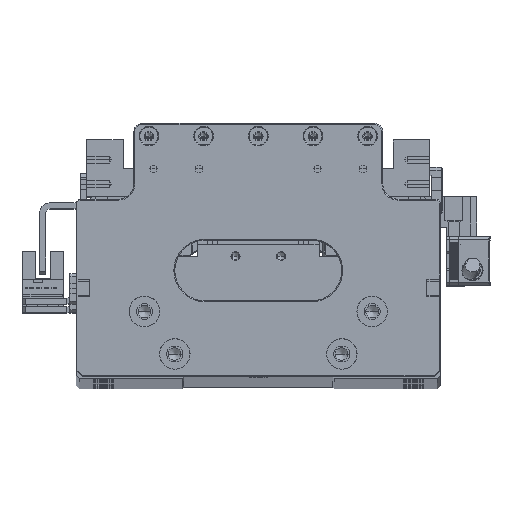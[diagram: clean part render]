
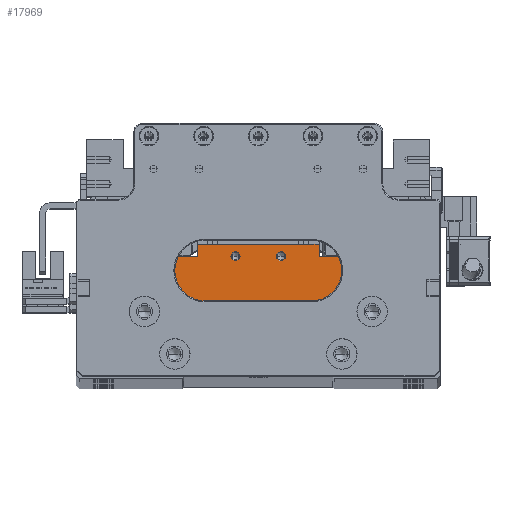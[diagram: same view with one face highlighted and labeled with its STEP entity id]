
A CAD part, top view. The second image highlights one B-rep face of the part: STEP entity #17969.
In plain terms, the highlighted planar face has unit normal (0, 0, 1).
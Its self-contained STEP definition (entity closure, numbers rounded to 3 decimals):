
#1219 = VERTEX_POINT ( 'NONE', #109952 ) ;
#1225 = LINE ( 'NONE', #130263, #54855 ) ;
#2827 = DIRECTION ( 'NONE',  ( 0., 1., 0. ) ) ;
#4763 = DIRECTION ( 'NONE',  ( 0., 0., 1. ) ) ;
#8325 = VERTEX_POINT ( 'NONE', #111724 ) ;
#9497 = ORIENTED_EDGE ( 'NONE', *, *, #23951, .F. ) ;
#10331 = CARTESIAN_POINT ( 'NONE',  ( -9.194, 10.204, 411.036 ) ) ;
#12601 = CARTESIAN_POINT ( 'NONE',  ( 18.306, 10.204, 411.036 ) ) ;
#15409 = AXIS2_PLACEMENT_3D ( 'NONE', #94768, #127509, #63378 ) ;
#17104 = EDGE_CURVE ( 'NONE', #132899, #47120, #44060, .T. ) ;
#17969 = ADVANCED_FACE ( 'NONE', ( #95770, #117512, #63911 ), #105967, .F. ) ;
#18488 = DIRECTION ( 'NONE',  ( 0., 0., 1. ) ) ;
#19829 = LINE ( 'NONE', #85998, #127015 ) ;
#21416 = AXIS2_PLACEMENT_3D ( 'NONE', #25178, #100048, #35930 ) ;
#22412 = CARTESIAN_POINT ( 'NONE',  ( 28.206, 6.204, 411.036 ) ) ;
#22630 = DIRECTION ( 'NONE',  ( 0., -1., 0. ) ) ;
#23478 = AXIS2_PLACEMENT_3D ( 'NONE', #68923, #4763, #79680 ) ;
#23951 = EDGE_CURVE ( 'NONE', #47120, #132899, #99403, .T. ) ;
#25039 = LINE ( 'NONE', #60049, #81952 ) ;
#25178 = CARTESIAN_POINT ( 'NONE',  ( -9.194, 6.304, 411.036 ) ) ;
#26848 = ORIENTED_EDGE ( 'NONE', *, *, #65080, .T. ) ;
#27278 = ORIENTED_EDGE ( 'NONE', *, *, #75104, .F. ) ;
#28365 = LINE ( 'NONE', #66993, #85275 ) ;
#31712 = VECTOR ( 'NONE', #137896, 1000. ) ;
#31734 = AXIS2_PLACEMENT_3D ( 'NONE', #82615, #18488, #93398 ) ;
#35930 = DIRECTION ( 'NONE',  ( 1., 0., 0. ) ) ;
#35992 = VERTEX_POINT ( 'NONE', #119046 ) ;
#36276 = CARTESIAN_POINT ( 'NONE',  ( -7.669, 6.304, 411.036 ) ) ;
#42818 = ORIENTED_EDGE ( 'NONE', *, *, #79283, .F. ) ;
#44060 = CIRCLE ( 'NONE', #23478, 1.525 ) ;
#45311 = EDGE_CURVE ( 'NONE', #66946, #54516, #80145, .T. ) ;
#47120 = VERTEX_POINT ( 'NONE', #72144 ) ;
#47274 = LINE ( 'NONE', #134572, #104181 ) ;
#50435 = DIRECTION ( 'NONE',  ( 0., 0., 1. ) ) ;
#54516 = VERTEX_POINT ( 'NONE', #12601 ) ;
#54855 = VECTOR ( 'NONE', #22630, 1000. ) ;
#55686 = VERTEX_POINT ( 'NONE', #102781 ) ;
#56734 = ORIENTED_EDGE ( 'NONE', *, *, #79019, .F. ) ;
#57775 = EDGE_LOOP ( 'NONE', ( #42818, #27278 ) ) ;
#58471 = CARTESIAN_POINT ( 'NONE',  ( 4.281, 6.304, 411.036 ) ) ;
#60049 = CARTESIAN_POINT ( 'NONE',  ( -21.694, -1.296, 411.036 ) ) ;
#62974 = CARTESIAN_POINT ( 'NONE',  ( 18.306, -1.296, 411.036 ) ) ;
#63378 = DIRECTION ( 'NONE',  ( -1., 0., 0. ) ) ;
#63911 = FACE_BOUND ( 'NONE', #57775, .T. ) ;
#64716 = CARTESIAN_POINT ( 'NONE',  ( -21.694, 10.204, 411.036 ) ) ;
#64942 = DIRECTION ( 'NONE',  ( 1., 0., 0. ) ) ;
#65080 = EDGE_CURVE ( 'NONE', #55686, #1219, #47274, .T. ) ;
#65553 = CARTESIAN_POINT ( 'NONE',  ( -21.694, 6.204, 411.036 ) ) ;
#66946 = VERTEX_POINT ( 'NONE', #64716 ) ;
#66993 = CARTESIAN_POINT ( 'NONE',  ( -31.594, -1.296, 411.036 ) ) ;
#68923 = CARTESIAN_POINT ( 'NONE',  ( 5.806, 6.304, 411.036 ) ) ;
#70420 = DIRECTION ( 'NONE',  ( 1., 0., 0. ) ) ;
#72144 = CARTESIAN_POINT ( 'NONE',  ( 7.331, 6.304, 411.036 ) ) ;
#75104 = EDGE_CURVE ( 'NONE', #99118, #78647, #110959, .T. ) ;
#77082 = ORIENTED_EDGE ( 'NONE', *, *, #98496, .F. ) ;
#77824 = VERTEX_POINT ( 'NONE', #22412 ) ;
#78647 = VERTEX_POINT ( 'NONE', #36276 ) ;
#79019 = EDGE_CURVE ( 'NONE', #77824, #1219, #1225, .T. ) ;
#79283 = EDGE_CURVE ( 'NONE', #78647, #99118, #113417, .T. ) ;
#79668 = DIRECTION ( 'NONE',  ( 1., 0., 0. ) ) ;
#79680 = DIRECTION ( 'NONE',  ( 1., 0., 0. ) ) ;
#80145 = LINE ( 'NONE', #10331, #111987 ) ;
#81952 = VECTOR ( 'NONE', #124205, 1000. ) ;
#82615 = CARTESIAN_POINT ( 'NONE',  ( -9.194, 6.304, 411.036 ) ) ;
#85275 = VECTOR ( 'NONE', #2827, 1000. ) ;
#85998 = CARTESIAN_POINT ( 'NONE',  ( -9.194, 6.204, 411.036 ) ) ;
#90435 = CARTESIAN_POINT ( 'NONE',  ( -9.194, 6.204, 411.036 ) ) ;
#93398 = DIRECTION ( 'NONE',  ( 1., 0., 0. ) ) ;
#93976 = EDGE_CURVE ( 'NONE', #55686, #8325, #28365, .T. ) ;
#94768 = CARTESIAN_POINT ( 'NONE',  ( -9.194, -1.296, 411.036 ) ) ;
#95770 = FACE_OUTER_BOUND ( 'NONE', #99253, .T. ) ;
#96062 = DIRECTION ( 'NONE',  ( 1., 0., 0. ) ) ;
#96065 = ORIENTED_EDGE ( 'NONE', *, *, #17104, .F. ) ;
#97527 = VERTEX_POINT ( 'NONE', #65553 ) ;
#98496 = EDGE_CURVE ( 'NONE', #54516, #35992, #107023, .T. ) ;
#99118 = VERTEX_POINT ( 'NONE', #127399 ) ;
#99253 = EDGE_LOOP ( 'NONE', ( #109424, #115485, #26848, #56734, #104089, #77082, #132566, #113967 ) ) ;
#99403 = CIRCLE ( 'NONE', #128022, 1.525 ) ;
#100048 = DIRECTION ( 'NONE',  ( 0., 0., 1. ) ) ;
#102781 = CARTESIAN_POINT ( 'NONE',  ( -31.594, -12.996, 411.036 ) ) ;
#104089 = ORIENTED_EDGE ( 'NONE', *, *, #110576, .F. ) ;
#104181 = VECTOR ( 'NONE', #70420, 1000. ) ;
#105967 = PLANE ( 'NONE',  #15409 ) ;
#106844 = EDGE_LOOP ( 'NONE', ( #9497, #96065 ) ) ;
#107023 = LINE ( 'NONE', #62974, #31712 ) ;
#109424 = ORIENTED_EDGE ( 'NONE', *, *, #130052, .F. ) ;
#109952 = CARTESIAN_POINT ( 'NONE',  ( 28.206, -12.996, 411.036 ) ) ;
#110576 = EDGE_CURVE ( 'NONE', #35992, #77824, #19829, .T. ) ;
#110959 = CIRCLE ( 'NONE', #21416, 1.525 ) ;
#111724 = CARTESIAN_POINT ( 'NONE',  ( -31.594, 6.204, 411.036 ) ) ;
#111987 = VECTOR ( 'NONE', #96062, 1000. ) ;
#113417 = CIRCLE ( 'NONE', #31734, 1.525 ) ;
#113967 = ORIENTED_EDGE ( 'NONE', *, *, #122416, .F. ) ;
#114576 = CARTESIAN_POINT ( 'NONE',  ( 5.806, 6.304, 411.036 ) ) ;
#115485 = ORIENTED_EDGE ( 'NONE', *, *, #93976, .F. ) ;
#117512 = FACE_BOUND ( 'NONE', #106844, .T. ) ;
#119046 = CARTESIAN_POINT ( 'NONE',  ( 18.306, 6.204, 411.036 ) ) ;
#122416 = EDGE_CURVE ( 'NONE', #97527, #66946, #25039, .T. ) ;
#124205 = DIRECTION ( 'NONE',  ( 0., 1., 0. ) ) ;
#125299 = DIRECTION ( 'NONE',  ( 1., 0., 0. ) ) ;
#125312 = LINE ( 'NONE', #90435, #135447 ) ;
#127015 = VECTOR ( 'NONE', #64942, 1000. ) ;
#127399 = CARTESIAN_POINT ( 'NONE',  ( -10.719, 6.304, 411.036 ) ) ;
#127509 = DIRECTION ( 'NONE',  ( 0., 0., -1. ) ) ;
#128022 = AXIS2_PLACEMENT_3D ( 'NONE', #114576, #50435, #125299 ) ;
#130052 = EDGE_CURVE ( 'NONE', #8325, #97527, #125312, .T. ) ;
#130263 = CARTESIAN_POINT ( 'NONE',  ( 28.206, -1.296, 411.036 ) ) ;
#132566 = ORIENTED_EDGE ( 'NONE', *, *, #45311, .F. ) ;
#132899 = VERTEX_POINT ( 'NONE', #58471 ) ;
#134572 = CARTESIAN_POINT ( 'NONE',  ( -9.194, -12.996, 411.036 ) ) ;
#135447 = VECTOR ( 'NONE', #79668, 1000. ) ;
#137896 = DIRECTION ( 'NONE',  ( 0., -1., 0. ) ) ;
